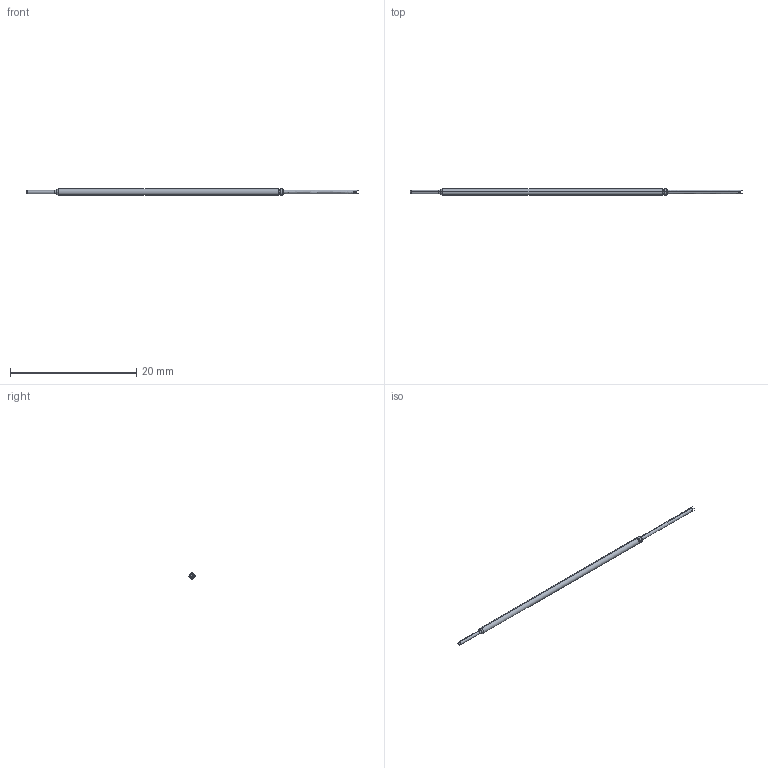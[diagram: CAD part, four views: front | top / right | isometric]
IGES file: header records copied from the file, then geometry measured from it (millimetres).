
Start section: SolidWorks IGES file using analytic representation for surfaces
Global section: file name: C:\Documents and Settings\mrumschlag\Desktop\changes\new\test\L24.IGS; native system: SolidWorks 2011; preprocessor: SolidWorks 2011; author: mrumschlag; date: 110630.163412; units: inch
Bounding box: 52.67 x 0.97 x 0.97 mm (x, y, z)
Surface area: 139.3 mm2 (no closed solid volume)
Topology: 0 solids, 0 shells, 31 faces, 178 edges, 176 vertices
Faces by surface type: bspline 17, revolution 14
